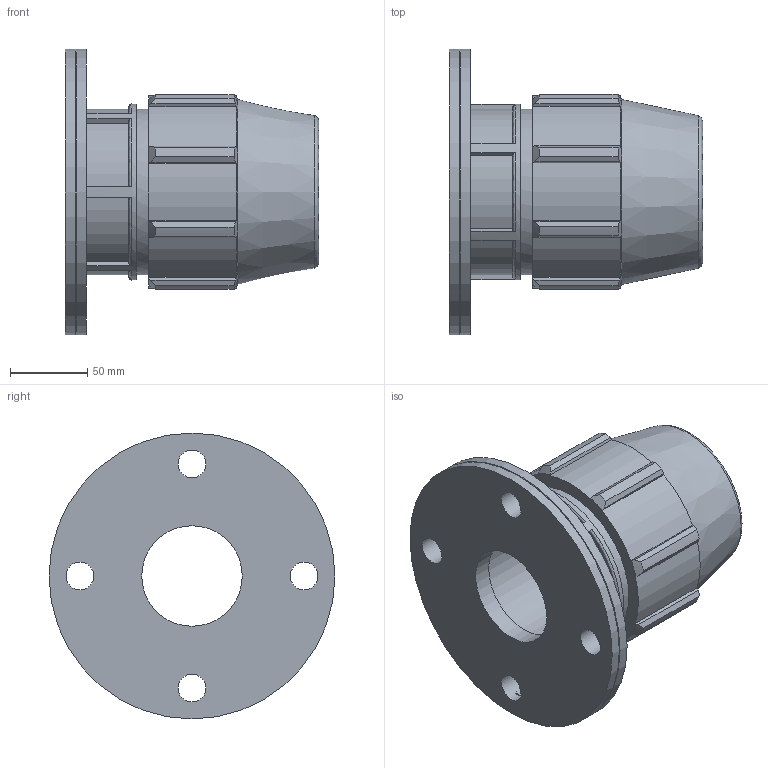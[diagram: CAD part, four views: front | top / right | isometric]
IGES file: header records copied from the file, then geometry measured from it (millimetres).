
Global section: file name: 0722060750250A.ipt; native system: Autodesk Inventor 2015; preprocessor: unknown; author: KIM; date: 20170608.042611; units: millimetre
Bounding box: 164 x 185 x 185 mm (x, y, z)
Volume: 1195853.5 mm3; surface area: 164091 mm2
Topology: 1 solids, 1 shells, 116 faces, 328 edges, 220 vertices
Faces by surface type: plane 58, cylinder 26, revolution 17, cone 15
Full cylindrical faces by diameter (mm): 107.2 x1, 113.9 x1, 185 x2
